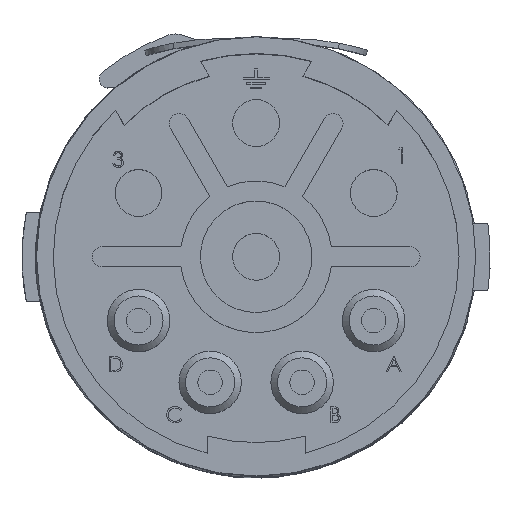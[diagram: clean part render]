
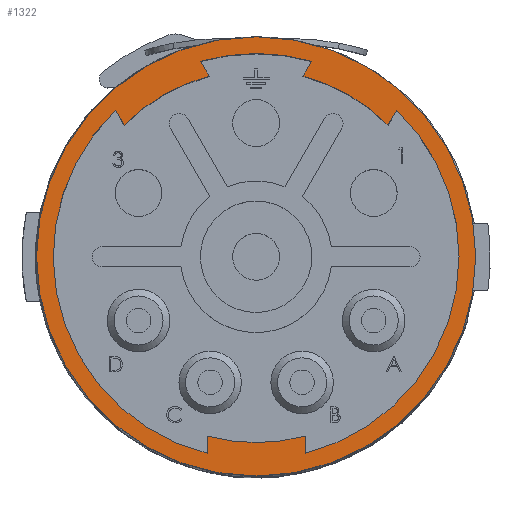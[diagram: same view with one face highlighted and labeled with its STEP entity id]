
A CAD part, top view. The second image highlights one B-rep face of the part: STEP entity #1322.
In plain terms, the highlighted planar face has unit normal (0, 0, 1).
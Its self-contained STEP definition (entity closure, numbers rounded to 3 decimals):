
#493=PLANE('',#10787);
#1322=ADVANCED_FACE('',(#2004,#2005),#493,.T.);
#2004=FACE_BOUND('',#2195,.T.);
#2005=FACE_BOUND('',#2196,.T.);
#2195=EDGE_LOOP('',(#3031,#3032,#3033,#3034,#3035,#3036,#3037,#3038,#3039,
#3040,#3041,#3042,#3043));
#2196=EDGE_LOOP('',(#3044));
#3031=ORIENTED_EDGE('',*,*,#6700,.T.);
#3032=ORIENTED_EDGE('',*,*,#6701,.T.);
#3033=ORIENTED_EDGE('',*,*,#6702,.T.);
#3034=ORIENTED_EDGE('',*,*,#6703,.T.);
#3035=ORIENTED_EDGE('',*,*,#6704,.T.);
#3036=ORIENTED_EDGE('',*,*,#6705,.T.);
#3037=ORIENTED_EDGE('',*,*,#6591,.T.);
#3038=ORIENTED_EDGE('',*,*,#6706,.T.);
#3039=ORIENTED_EDGE('',*,*,#6707,.T.);
#3040=ORIENTED_EDGE('',*,*,#6708,.T.);
#3041=ORIENTED_EDGE('',*,*,#6709,.T.);
#3042=ORIENTED_EDGE('',*,*,#6710,.T.);
#3043=ORIENTED_EDGE('',*,*,#6711,.T.);
#3044=ORIENTED_EDGE('',*,*,#6508,.F.);
#5528=VERTEX_POINT('',#14256);
#5611=VERTEX_POINT('',#14659);
#5612=VERTEX_POINT('',#14661);
#5718=VERTEX_POINT('',#14919);
#5719=VERTEX_POINT('',#14920);
#5720=VERTEX_POINT('',#14922);
#5721=VERTEX_POINT('',#14924);
#5722=VERTEX_POINT('',#14926);
#5723=VERTEX_POINT('',#14928);
#5724=VERTEX_POINT('',#14931);
#5725=VERTEX_POINT('',#14933);
#5726=VERTEX_POINT('',#14935);
#5727=VERTEX_POINT('',#14937);
#5728=VERTEX_POINT('',#14939);
#6508=EDGE_CURVE('',#5528,#5528,#8185,.T.);
#6591=EDGE_CURVE('',#5612,#5611,#8206,.T.);
#6700=EDGE_CURVE('',#5718,#5719,#8278,.T.);
#6701=EDGE_CURVE('',#5719,#5720,#8847,.T.);
#6702=EDGE_CURVE('',#5720,#5721,#8279,.T.);
#6703=EDGE_CURVE('',#5721,#5722,#8848,.T.);
#6704=EDGE_CURVE('',#5722,#5723,#8280,.T.);
#6705=EDGE_CURVE('',#5723,#5612,#8849,.T.);
#6706=EDGE_CURVE('',#5611,#5724,#8281,.T.);
#6707=EDGE_CURVE('',#5724,#5725,#8850,.T.);
#6708=EDGE_CURVE('',#5725,#5726,#8282,.T.);
#6709=EDGE_CURVE('',#5726,#5727,#8851,.T.);
#6710=EDGE_CURVE('',#5727,#5728,#8283,.T.);
#6711=EDGE_CURVE('',#5728,#5718,#8852,.T.);
#8185=CIRCLE('',#10621,9.85);
#8206=CIRCLE('',#10669,9.1);
#8278=CIRCLE('',#10781,8.35);
#8279=CIRCLE('',#10782,9.1);
#8280=CIRCLE('',#10783,8.35);
#8281=CIRCLE('',#10784,9.1);
#8282=CIRCLE('',#10785,8.35);
#8283=CIRCLE('',#10786,9.1);
#8847=LINE('',#14921,#9670);
#8848=LINE('',#14925,#9671);
#8849=LINE('',#14929,#9672);
#8850=LINE('',#14932,#9673);
#8851=LINE('',#14936,#9674);
#8852=LINE('',#14940,#9675);
#9670=VECTOR('',#11874,1.);
#9671=VECTOR('',#11877,1.);
#9672=VECTOR('',#11880,1.);
#9673=VECTOR('',#11883,1.);
#9674=VECTOR('',#11886,1.);
#9675=VECTOR('',#11889,1.);
#10621=AXIS2_PLACEMENT_3D('',#14255,#11507,#11508);
#10669=AXIS2_PLACEMENT_3D('',#14660,#11612,#11613);
#10781=AXIS2_PLACEMENT_3D('',#14918,#11872,#11873);
#10782=AXIS2_PLACEMENT_3D('',#14923,#11875,#11876);
#10783=AXIS2_PLACEMENT_3D('',#14927,#11878,#11879);
#10784=AXIS2_PLACEMENT_3D('',#14930,#11881,#11882);
#10785=AXIS2_PLACEMENT_3D('',#14934,#11884,#11885);
#10786=AXIS2_PLACEMENT_3D('',#14938,#11887,#11888);
#10787=AXIS2_PLACEMENT_3D('',#14941,#11890,#11891);
#11507=DIRECTION('',(0.,0.,-1.));
#11508=DIRECTION('',(-1.,0.,0.));
#11612=DIRECTION('',(0.,0.,-1.));
#11613=DIRECTION('',(1.,0.,0.));
#11872=DIRECTION('',(0.,0.,-1.));
#11873=DIRECTION('',(1.,0.,0.));
#11874=DIRECTION('',(-0.5,0.866,0.));
#11875=DIRECTION('',(0.,0.,-1.));
#11876=DIRECTION('',(1.,0.,0.));
#11877=DIRECTION('',(-0.5,-0.866,0.));
#11878=DIRECTION('',(0.,0.,-1.));
#11879=DIRECTION('',(1.,0.,0.));
#11880=DIRECTION('',(0.5,0.866,0.));
#11881=DIRECTION('',(0.,0.,-1.));
#11882=DIRECTION('',(1.,0.,0.));
#11883=DIRECTION('',(0.,1.,0.));
#11884=DIRECTION('',(0.,0.,-1.));
#11885=DIRECTION('',(1.,0.,0.));
#11886=DIRECTION('',(0.,-1.,0.));
#11887=DIRECTION('',(0.,0.,-1.));
#11888=DIRECTION('',(1.,0.,0.));
#11889=DIRECTION('',(0.5,-0.866,0.));
#11890=DIRECTION('',(0.,0.,1.));
#11891=DIRECTION('',(0.,-1.,0.));
#14255=CARTESIAN_POINT('',(0.,0.,10.));
#14256=CARTESIAN_POINT('',(-9.85,0.,10.));
#14659=CARTESIAN_POINT('',(9.1,0.,10.));
#14660=CARTESIAN_POINT('',(0.,0.,10.));
#14661=CARTESIAN_POINT('',(6.304,6.563,10.));
#14918=CARTESIAN_POINT('',(0.,0.,10.));
#14919=CARTESIAN_POINT('',(-5.917,5.892,10.));
#14920=CARTESIAN_POINT('',(-2.1,8.082,10.));
#14921=CARTESIAN_POINT('',(-2.488,8.753,10.));
#14922=CARTESIAN_POINT('',(-2.488,8.753,10.));
#14923=CARTESIAN_POINT('',(0.,0.,10.));
#14924=CARTESIAN_POINT('',(2.488,8.753,10.));
#14925=CARTESIAN_POINT('',(2.1,8.082,10.));
#14926=CARTESIAN_POINT('',(2.1,8.082,10.));
#14927=CARTESIAN_POINT('',(0.,0.,10.));
#14928=CARTESIAN_POINT('',(5.917,5.892,10.));
#14929=CARTESIAN_POINT('',(6.304,6.563,10.));
#14930=CARTESIAN_POINT('',(0.,0.,10.));
#14931=CARTESIAN_POINT('',(2.2,-8.83,10.));
#14932=CARTESIAN_POINT('',(2.2,-8.055,10.));
#14933=CARTESIAN_POINT('',(2.2,-8.055,10.));
#14934=CARTESIAN_POINT('',(0.,0.,10.));
#14935=CARTESIAN_POINT('',(-2.2,-8.055,10.));
#14936=CARTESIAN_POINT('',(-2.2,-8.83,10.));
#14937=CARTESIAN_POINT('',(-2.2,-8.83,10.));
#14938=CARTESIAN_POINT('',(0.,0.,10.));
#14939=CARTESIAN_POINT('',(-6.304,6.563,10.));
#14940=CARTESIAN_POINT('',(-5.917,5.892,10.));
#14941=CARTESIAN_POINT('',(9.968,-9.968,10.));
